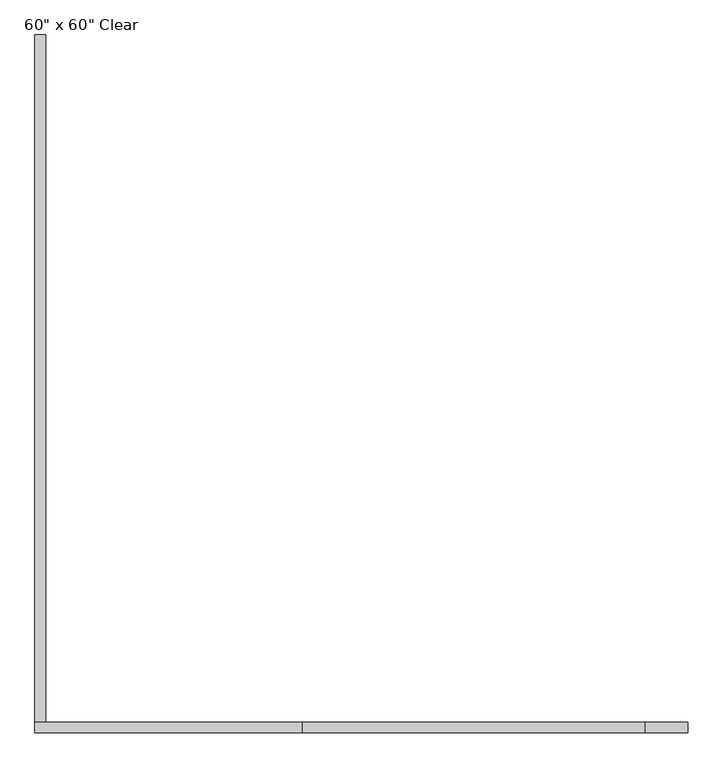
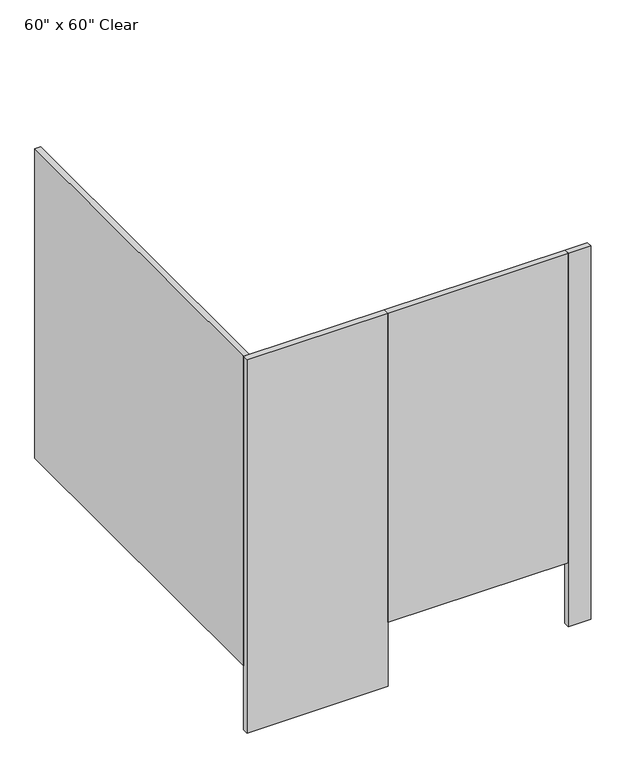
"""IFC4 building model written with IfcOpenShell, lengths in millimetres: proxy geometry."""

from ifc_helpers import new_model, si_unit, frame, origin, origin_with_axes, place, context, project, spatial, polyline, outline, extrude, source, transform, mapped, element, save


def proxy_deb97b80(model_context):
    return source(origin(), model_context, "Body", "SweptSolid", [
        extrude(outline(polyline([(1370.1031538, -1720.85), (557.3031538, -1720.85), (557.3031538, -1695.45), (1370.1031538, -1695.45), (1370.1031538, -1720.85)])), frame((0.0, 0.0, 304.8), z_axis=(0.0, 0.0, 1.0), x_axis=(1.0, 0.0, 0.0)), (0.0, 0.0, 1.0), 1473.2),
        extrude(outline(polyline([(557.3031538, -1720.85), (-77.6968462, -1720.85), (-77.6968462, -1695.45), (557.3031538, -1695.45), (557.3031538, -1720.85)])), origin_with_axes(), (0.0, 0.0, 1.0), 1778.0),
        extrude(outline(polyline([(1471.7031538, -1720.85), (1370.1031538, -1720.85), (1370.1031538, -1695.45), (1471.7031538, -1695.45), (1471.7031538, -1720.85)])), origin_with_axes(), (0.0, 0.0, 1.0), 1778.0),
        extrude(outline(polyline([(-77.6968462, -1695.45), (-77.6968462, -65.0875), (-52.2968462, -65.0875), (-52.2968462, -1695.45), (-77.6968462, -1695.45)])), frame((0.0, 0.0, 304.8), z_axis=(0.0, 0.0, 1.0), x_axis=(1.0, 0.0, 0.0)), (0.0, 0.0, 1.0), 1473.2),
    ])


if __name__ == "__main__":
    model = new_model("IFC4")
    model_context = context("Model", 3, world=origin())
    ifc_project = project(units=[si_unit("LENGTHUNIT", "METRE", prefix="MILLI")], contexts=[model_context])
    site = spatial("IfcSite", under=ifc_project)
    building = spatial("IfcBuilding", under=site)
    placement = place(None, origin())
    proxy_shape = proxy_deb97b80(model_context)
    element("IfcBuildingElementProxy", 1, Name="Toilet Stall-Accessible-Front-3D w Toilet : 60\" x 60\" Clear", ObjectType="Toilet Stall-Accessible-Front-3D w Toilet : 60\" x 60\" Clear", at=placement, inside=building, context=model_context, shape_type="MappedRepresentation", body=[
        mapped(proxy_shape, transform((0.0, 0.0, 0.0), x_axis=(1.0, 0.0, 0.0), y_axis=(0.0, 1.0, 0.0), z_axis=(0.0, 0.0, 1.0))),
    ])
    save(model, "model.ifc")
